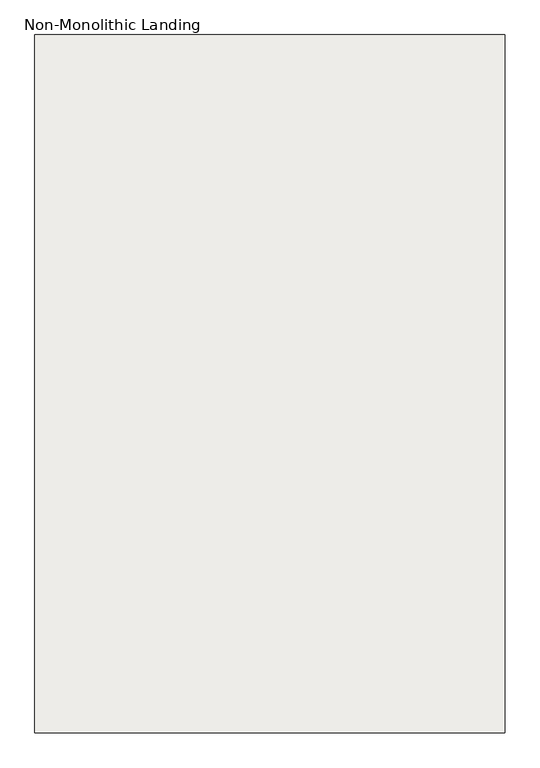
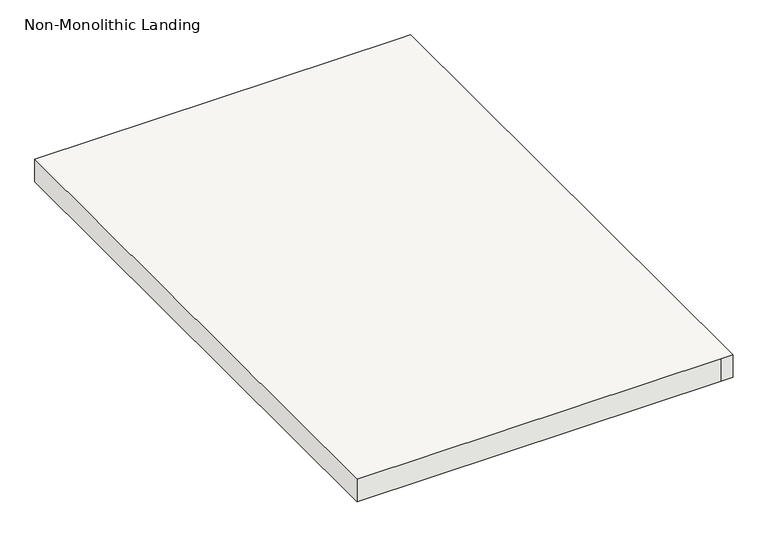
"""IFC4 building model written with IfcOpenShell, lengths in millimetres: slab geometry, Non-Monolithic Landing."""

from ifc_helpers import new_model, si_unit, frame, origin, place, context, project, spatial, polyline, outline, extrude, source, transform, mapped, element, save


def non_monolithic_landing_5e3153e8(model_context):
    return source(origin(), model_context, "Body", "SweptSolid", [
        extrude(outline(polyline([(-10775.6813244, -2656.2507772), (-9988.2813244, -2656.2507772), (-9962.8813244, -2656.2507772), (-9962.8813244, -3862.1362112), (-9988.2813244, -3862.1362112), (-10775.6813244, -3862.1362112), (-10775.6813244, -2656.2507772)])), frame((0.0, 0.0, 1690.9142857), z_axis=(0.0, 0.0, 1.0), x_axis=(1.0, 0.0, 0.0)), (0.0, 0.0, 1.0), 50.8),
    ])


if __name__ == "__main__":
    model = new_model("IFC4")
    model_context = context("Model", 3, world=origin())
    ifc_project = project(units=[si_unit("LENGTHUNIT", "METRE", prefix="MILLI")], contexts=[model_context])
    site = spatial("IfcSite", under=ifc_project)
    building = spatial("IfcBuilding", under=site)
    placement = place(None, origin())
    non_monolithic_landing_shape = non_monolithic_landing_5e3153e8(model_context)
    element("IfcSlab", 1, ObjectType="Non-Monolithic Landing", at=placement, inside=building, context=model_context, shape_type="MappedRepresentation", body=[
        mapped(non_monolithic_landing_shape, transform((0.0, 0.0, 0.0), x_axis=(1.0, 0.0, 0.0), y_axis=(0.0, 1.0, 0.0), z_axis=(0.0, 0.0, 1.0))),
    ])
    save(model, "model.ifc")
